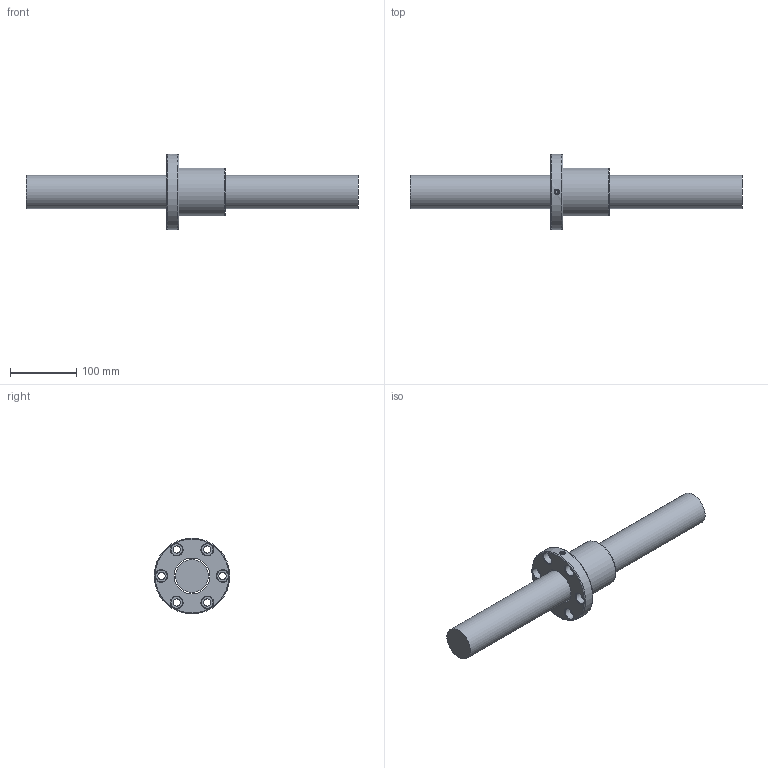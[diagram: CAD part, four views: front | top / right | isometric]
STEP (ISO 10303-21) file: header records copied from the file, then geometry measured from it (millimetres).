
FILE_DESCRIPTION (( 'STEP AP203' ), '1' );
FILE_NAME ('SFNI05010N-4.step', '2024-05-16T01:22:22', ( '' ), ( '' ), 'SwSTEP 2.0', 'SolidWorks 2022', '' );
FILE_SCHEMA (( 'CONFIG_CONTROL_DESIGN' ));
Length unit declared in the file: millimetre
Products named in the file (1): SFNI05010N-4
Bounding box: 500 x 114 x 114 mm (x, y, z)
Volume: 1226846.1 mm3; surface area: 139109.5 mm2
Topology: 2 solids, 2 shells, 56 faces, 140 edges, 88 vertices
Faces by surface type: cylinder 24, cone 13, plane 12, bspline 4, torus 3
Full cylindrical faces by diameter (mm): 4 x1, 7 x6, 11 x6, 17.5 x6, 50 x1, 54.1 x1, 72 x1, 114 x1
Entity records: 3101 total; most frequent: CARTESIAN_POINT 2054, DIRECTION 204, ORIENTED_EDGE 148, EDGE_LOOP 102, AXIS2_PLACEMENT_3D 101, EDGE_CURVE 74, FACE_OUTER_BOUND 72, VERTEX_POINT 64
